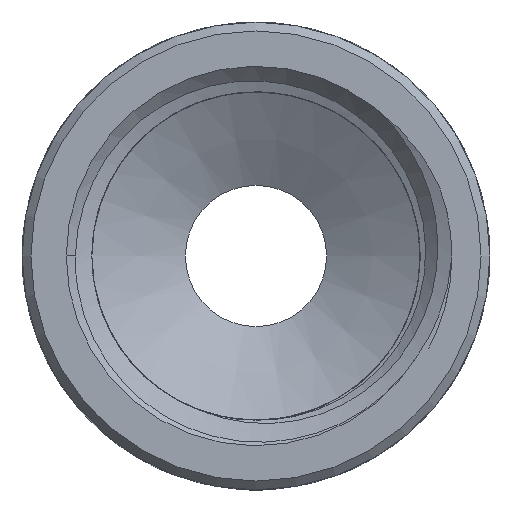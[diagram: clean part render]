
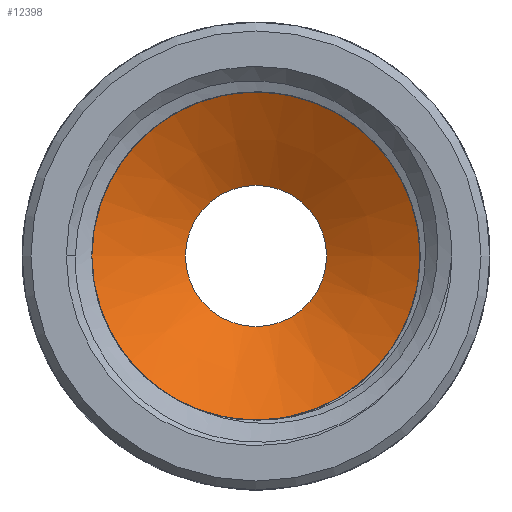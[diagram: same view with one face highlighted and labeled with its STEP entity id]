
A CAD part, left-side view. The second image highlights one B-rep face of the part: STEP entity #12398.
In plain terms, the highlighted conical face has half-angle 60.489 degrees and reference radius 6.65 mm.
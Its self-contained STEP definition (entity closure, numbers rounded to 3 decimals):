
#692=CONICAL_SURFACE('',#13066,6.65,1.056);
#1353=FACE_OUTER_BOUND('',#2081,.T.);
#2081=EDGE_LOOP('',(#11495,#11496,#11497,#11498,#11499,#11500));
#2110=CIRCLE('',#12450,9.3);
#2111=CIRCLE('',#12451,9.3);
#2422=CIRCLE('',#13064,4.);
#2423=CIRCLE('',#13065,4.);
#3946=LINE('',#29992,#4715);
#4715=VECTOR('',#15127,6.65);
#4747=VERTEX_POINT('',#15583);
#4748=VERTEX_POINT('',#15585);
#5972=VERTEX_POINT('',#29986);
#5973=VERTEX_POINT('',#29987);
#6021=EDGE_CURVE('',#4748,#4747,#2110,.T.);
#6022=EDGE_CURVE('',#4747,#4748,#2111,.T.);
#7844=EDGE_CURVE('',#5972,#5973,#2422,.T.);
#7846=EDGE_CURVE('',#5973,#5972,#2423,.T.);
#7847=EDGE_CURVE('',#4747,#5973,#3946,.T.);
#11495=ORIENTED_EDGE('',*,*,#6021,.T.);
#11496=ORIENTED_EDGE('',*,*,#7847,.T.);
#11497=ORIENTED_EDGE('',*,*,#7844,.F.);
#11498=ORIENTED_EDGE('',*,*,#7846,.F.);
#11499=ORIENTED_EDGE('',*,*,#7847,.F.);
#11500=ORIENTED_EDGE('',*,*,#6022,.T.);
#12398=ADVANCED_FACE('',(#1353),#692,.F.);
#12450=AXIS2_PLACEMENT_3D('',#15586,#13144,#13145);
#12451=AXIS2_PLACEMENT_3D('',#15587,#13146,#13147);
#13064=AXIS2_PLACEMENT_3D('',#29988,#15120,#15121);
#13065=AXIS2_PLACEMENT_3D('',#29990,#15123,#15124);
#13066=AXIS2_PLACEMENT_3D('',#29991,#15125,#15126);
#13144=DIRECTION('center_axis',(-1.,0.,0.));
#13145=DIRECTION('ref_axis',(0.,0.,1.));
#13146=DIRECTION('center_axis',(-1.,0.,0.));
#13147=DIRECTION('ref_axis',(0.,0.,1.));
#15120=DIRECTION('center_axis',(-1.,0.,0.));
#15121=DIRECTION('ref_axis',(0.,0.,1.));
#15123=DIRECTION('center_axis',(-1.,0.,0.));
#15124=DIRECTION('ref_axis',(0.,0.,1.));
#15125=DIRECTION('center_axis',(-1.,0.,0.));
#15126=DIRECTION('ref_axis',(0.,-1.,0.));
#15127=DIRECTION('',(0.493,-0.87,0.));
#15583=CARTESIAN_POINT('',(-3.,9.3,0.));
#15585=CARTESIAN_POINT('',(-3.,-9.3,0.));
#15586=CARTESIAN_POINT('Origin',(-3.,0.,
0.));
#15587=CARTESIAN_POINT('Origin',(-3.,0.,
0.));
#29986=CARTESIAN_POINT('',(0.,-4.,0.));
#29987=CARTESIAN_POINT('',(0.,4.,0.));
#29988=CARTESIAN_POINT('Origin',(0.,0.,
0.));
#29990=CARTESIAN_POINT('Origin',(0.,0.,
0.));
#29991=CARTESIAN_POINT('Origin',(-1.5,0.,
0.));
#29992=CARTESIAN_POINT('',(-1.5,6.65,0.));
